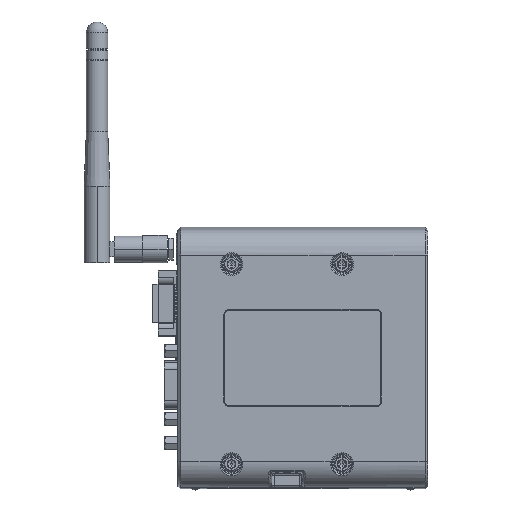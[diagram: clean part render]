
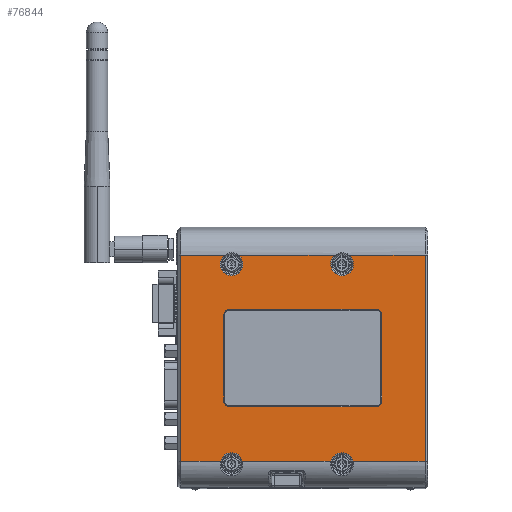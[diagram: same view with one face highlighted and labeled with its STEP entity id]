
A CAD part, left-side view. The second image highlights one B-rep face of the part: STEP entity #76844.
In plain terms, the highlighted planar face has unit normal (-1, 0, 0).
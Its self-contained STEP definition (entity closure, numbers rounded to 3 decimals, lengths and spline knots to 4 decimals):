
#25761=CARTESIAN_POINT('',(-2.018,1.2436,
-1.4339));
#25856=DIRECTION('',(0.,-1.,0.));
#25857=VECTOR('',#25856,1.2727);
#25858=CARTESIAN_POINT('',(-2.018,0.9264,
-1.4339));
#25859=LINE('',#25858,#25857);
#25869=CARTESIAN_POINT('',(-2.018,-0.3464,
-1.4339));
#26807=DIRECTION('',(0.,0.,1.));
#26808=VECTOR('',#26807,2.9644);
#26809=CARTESIAN_POINT('',(-2.018,1.8184,
-1.4339));
#26810=LINE('',#26809,#26808);
#26811=DIRECTION('',(0.,1.,0.));
#26812=VECTOR('',#26811,1.3939);
#26813=CARTESIAN_POINT('',(-2.018,-0.4069,
1.5305));
#26814=LINE('',#26813,#26812);
#26815=DIRECTION('',(0.,1.,0.));
#26816=VECTOR('',#26815,1.0963);
#26817=CARTESIAN_POINT('',(-2.018,-1.6994,
1.5305));
#26818=LINE('',#26817,#26816);
#26819=DIRECTION('',(0.,0.,-1.));
#26820=VECTOR('',#26819,2.9644);
#26821=CARTESIAN_POINT('',(-2.018,-1.6994,
1.5305));
#26822=LINE('',#26821,#26820);
#26823=DIRECTION('',(0.,-1.,0.));
#26824=VECTOR('',#26823,1.0357);
#26825=CARTESIAN_POINT('',(-2.018,-0.6636,
-1.4339));
#26826=LINE('',#26825,#26824);
#26827=CARTESIAN_POINT('',(-2.018,-0.505,-1.4762));
#26828=DIRECTION('',(1.,0.,0.));
#26829=DIRECTION('',(0.,0.966,0.258));
#26830=AXIS2_PLACEMENT_3D('',#26827,#26828,#26829);
#26832=CARTESIAN_POINT('',(-2.018,1.085,-1.4762));
#26833=DIRECTION('',(1.,0.,0.));
#26834=DIRECTION('',(0.,0.966,0.258));
#26835=AXIS2_PLACEMENT_3D('',#26832,#26833,#26834);
#26837=DIRECTION('',(0.,1.,0.));
#26838=VECTOR('',#26837,0.5747);
#26839=CARTESIAN_POINT('',(-2.018,1.2436,
-1.4339));
#26840=LINE('',#26839,#26838);
#26841=DIRECTION('',(0.,1.,0.));
#26842=VECTOR('',#26841,2.11);
#26843=CARTESIAN_POINT('',(-2.018,-0.9955,0.7479));
#26844=LINE('',#26843,#26842);
#26845=DIRECTION('',(0.,0.,-1.));
#26846=VECTOR('',#26845,1.235);
#26847=CARTESIAN_POINT('',(-2.018,1.1966,0.6658));
#26848=LINE('',#26847,#26846);
#26849=DIRECTION('',(0.,-1.,0.));
#26850=VECTOR('',#26849,2.11);
#26851=CARTESIAN_POINT('',(-2.018,1.1145,-0.6513));
#26852=LINE('',#26851,#26850);
#26853=DIRECTION('',(0.,0.,1.));
#26854=VECTOR('',#26853,1.235);
#26855=CARTESIAN_POINT('',(-2.018,-1.0776,-0.5692));
#26856=LINE('',#26855,#26854);
#26875=CARTESIAN_POINT('',(-2.018,-0.4069,
1.5305));
#26909=CARTESIAN_POINT('',(-2.018,-0.6031,
1.5305));
#26911=CARTESIAN_POINT('',(-2.018,1.1831,
1.5305));
#26945=CARTESIAN_POINT('',(-2.018,0.9869,
1.5305));
#26947=DIRECTION('',(0.,1.,0.));
#26948=VECTOR('',#26947,0.6353);
#26949=CARTESIAN_POINT('',(-2.018,1.1831,
1.5305));
#26950=LINE('',#26949,#26948);
#26960=CARTESIAN_POINT('',(-2.018,-0.505,1.3988));
#26961=DIRECTION('',(1.,0.,0.));
#26962=DIRECTION('',(0.,-0.597,0.802));
#26963=AXIS2_PLACEMENT_3D('',#26960,#26961,#26962);
#27378=CARTESIAN_POINT('',(-2.018,1.085,1.3988));
#27379=DIRECTION('',(1.,0.,0.));
#27380=DIRECTION('',(0.,-0.597,0.802));
#27381=AXIS2_PLACEMENT_3D('',#27378,#27379,#27380);
#28837=CARTESIAN_POINT('',(-2.018,1.1145,0.6658));
#28838=DIRECTION('',(1.,0.,0.));
#28839=DIRECTION('',(0.,1.,0.));
#28840=AXIS2_PLACEMENT_3D('',#28837,#28838,#28839);
#28878=CARTESIAN_POINT('',(-2.018,1.1145,-0.5692));
#28879=DIRECTION('',(1.,0.,0.));
#28880=DIRECTION('',(0.,0.,-1.));
#28881=AXIS2_PLACEMENT_3D('',#28878,#28879,#28880);
#28891=CARTESIAN_POINT('',(-2.018,-0.9955,-0.5692));
#28892=DIRECTION('',(1.,0.,0.));
#28893=DIRECTION('',(0.,-1.,0.));
#28894=AXIS2_PLACEMENT_3D('',#28891,#28892,#28893);
#28904=CARTESIAN_POINT('',(-2.018,-0.9955,0.6658));
#28905=DIRECTION('',(1.,0.,0.));
#28906=DIRECTION('',(0.,0.,1.));
#28907=AXIS2_PLACEMENT_3D('',#28904,#28905,#28906);
#48306=CARTESIAN_POINT('',(-2.018,1.8184,1.5305));
#48307=VERTEX_POINT('',#48306);
#48310=CARTESIAN_POINT('',(-2.018,1.8184,
-1.4339));
#48311=VERTEX_POINT('',#48310);
#48858=VERTEX_POINT('',#26875);
#48859=VERTEX_POINT('',#26909);
#48867=VERTEX_POINT('',#26911);
#48868=VERTEX_POINT('',#26945);
#48873=VERTEX_POINT('',#25761);
#48876=CARTESIAN_POINT('',(-2.018,0.9264,-1.4339));
#48877=VERTEX_POINT('',#48876);
#48883=VERTEX_POINT('',#25869);
#48886=CARTESIAN_POINT('',(-2.018,-0.6636,-1.4339));
#48887=VERTEX_POINT('',#48886);
#48963=CARTESIAN_POINT('',(-2.018,-1.6994,
1.5305));
#48964=VERTEX_POINT('',#48963);
#48965=CARTESIAN_POINT('',(-2.018,-1.6994,
-1.4339));
#48966=VERTEX_POINT('',#48965);
#49723=CARTESIAN_POINT('',(-2.018,1.1145,-0.6513));
#49724=VERTEX_POINT('',#49723);
#49725=CARTESIAN_POINT('',(-2.018,1.1966,-0.5692));
#49726=VERTEX_POINT('',#49725);
#49731=CARTESIAN_POINT('',(-2.018,1.1966,0.6658));
#49732=VERTEX_POINT('',#49731);
#49733=CARTESIAN_POINT('',(-2.018,1.1145,0.7479));
#49734=VERTEX_POINT('',#49733);
#49739=CARTESIAN_POINT('',(-2.018,-0.9955,0.7479));
#49740=VERTEX_POINT('',#49739);
#49741=CARTESIAN_POINT('',(-2.018,-1.0776,0.6658));
#49742=VERTEX_POINT('',#49741);
#49747=CARTESIAN_POINT('',(-2.018,-1.0776,-0.5692));
#49748=VERTEX_POINT('',#49747);
#49749=CARTESIAN_POINT('',(-2.018,-0.9955,-0.6513));
#49750=VERTEX_POINT('',#49749);
#76799=CARTESIAN_POINT('',(-2.018,1.8084,1.8958));
#76800=DIRECTION('',(-1.,0.,0.));
#76801=DIRECTION('',(0.,-1.,0.));
#76802=AXIS2_PLACEMENT_3D('',#76799,#76800,#76801);
#76803=PLANE('',#76802);
#76805=ORIENTED_EDGE('',*,*,#76804,.T.);
#76807=ORIENTED_EDGE('',*,*,#76806,.F.);
#76809=ORIENTED_EDGE('',*,*,#76808,.F.);
#76811=ORIENTED_EDGE('',*,*,#76810,.F.);
#76813=ORIENTED_EDGE('',*,*,#76812,.F.);
#76815=ORIENTED_EDGE('',*,*,#76814,.F.);
#76816=ORIENTED_EDGE('',*,*,#76792,.T.);
#76817=ORIENTED_EDGE('',*,*,#76019,.F.);
#76819=ORIENTED_EDGE('',*,*,#76818,.F.);
#76820=ORIENTED_EDGE('',*,*,#76011,.F.);
#76822=ORIENTED_EDGE('',*,*,#76821,.F.);
#76823=ORIENTED_EDGE('',*,*,#76003,.T.);
#76824=EDGE_LOOP('',(#76805,#76807,#76809,#76811,#76813,#76815,#76816,#76817,
#76819,#76820,#76822,#76823));
#76825=FACE_OUTER_BOUND('',#76824,.F.);
#76827=ORIENTED_EDGE('',*,*,#76826,.T.);
#76829=ORIENTED_EDGE('',*,*,#76828,.F.);
#76831=ORIENTED_EDGE('',*,*,#76830,.T.);
#76833=ORIENTED_EDGE('',*,*,#76832,.F.);
#76835=ORIENTED_EDGE('',*,*,#76834,.T.);
#76837=ORIENTED_EDGE('',*,*,#76836,.F.);
#76839=ORIENTED_EDGE('',*,*,#76838,.T.);
#76841=ORIENTED_EDGE('',*,*,#76840,.F.);
#76842=EDGE_LOOP('',(#76827,#76829,#76831,#76833,#76835,#76837,#76839,#76841));
#76843=FACE_BOUND('',#76842,.F.);
#76844=ADVANCED_FACE('',(#76825,#76843),#76803,.T.);
#26831=CIRCLE('',#26830,0.1642);
#26836=CIRCLE('',#26835,0.1642);
#26964=CIRCLE('',#26963,0.1642);
#27382=CIRCLE('',#27381,0.1642);
#28841=CIRCLE('',#28840,0.0821);
#28882=CIRCLE('',#28881,0.0821);
#28895=CIRCLE('',#28894,0.0821);
#28908=CIRCLE('',#28907,0.0821);
#76003=EDGE_CURVE('',#48873,#48311,#26840,.T.);
#76011=EDGE_CURVE('',#48877,#48883,#25859,.T.);
#76019=EDGE_CURVE('',#48887,#48966,#26826,.T.);
#76792=EDGE_CURVE('',#48964,#48966,#26822,.T.);
#76804=EDGE_CURVE('',#48311,#48307,#26810,.T.);
#76806=EDGE_CURVE('',#48867,#48307,#26950,.T.);
#76808=EDGE_CURVE('',#48868,#48867,#27382,.T.);
#76810=EDGE_CURVE('',#48858,#48868,#26814,.T.);
#76812=EDGE_CURVE('',#48859,#48858,#26964,.T.);
#76814=EDGE_CURVE('',#48964,#48859,#26818,.T.);
#76818=EDGE_CURVE('',#48883,#48887,#26831,.T.);
#76821=EDGE_CURVE('',#48873,#48877,#26836,.T.);
#76826=EDGE_CURVE('',#49740,#49734,#26844,.T.);
#76828=EDGE_CURVE('',#49732,#49734,#28841,.T.);
#76830=EDGE_CURVE('',#49732,#49726,#26848,.T.);
#76832=EDGE_CURVE('',#49724,#49726,#28882,.T.);
#76834=EDGE_CURVE('',#49724,#49750,#26852,.T.);
#76836=EDGE_CURVE('',#49748,#49750,#28895,.T.);
#76838=EDGE_CURVE('',#49748,#49742,#26856,.T.);
#76840=EDGE_CURVE('',#49740,#49742,#28908,.T.);
